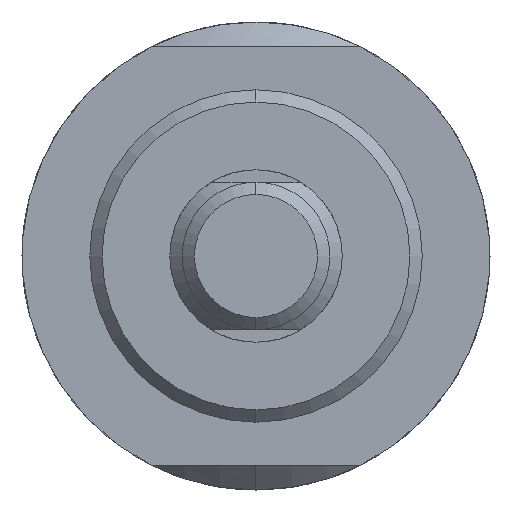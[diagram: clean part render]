
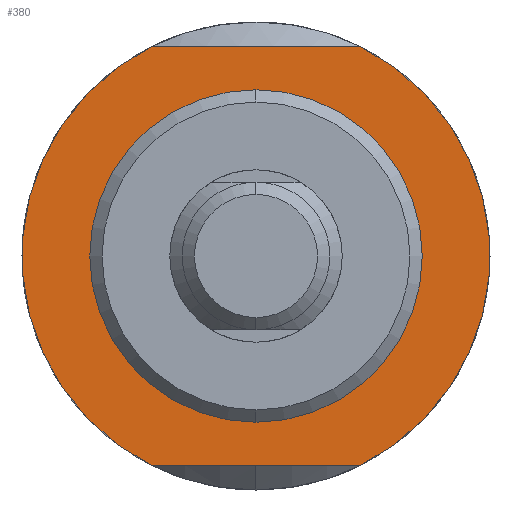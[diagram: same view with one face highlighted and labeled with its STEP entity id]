
A CAD part, left-side view. The second image highlights one B-rep face of the part: STEP entity #380.
In plain terms, the highlighted planar face has unit normal (-1, 0, 0).
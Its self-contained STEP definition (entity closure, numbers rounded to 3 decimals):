
#39 = LINE ( 'NONE', #367, #1624 ) ;
#75 = PLANE ( 'NONE',  #1456 ) ;
#121 = DIRECTION ( 'NONE',  ( 0., 0., 1. ) ) ;
#124 = VERTEX_POINT ( 'NONE', #1738 ) ;
#152 = EDGE_CURVE ( 'NONE', #707, #1403, #1567, .T. ) ;
#154 = LINE ( 'NONE', #851, #356 ) ;
#195 = EDGE_CURVE ( 'NONE', #1312, #489, #1030, .T. ) ;
#228 = DIRECTION ( 'NONE',  ( 0., -1., 0. ) ) ;
#329 = VERTEX_POINT ( 'NONE', #1558 ) ;
#337 = DIRECTION ( 'NONE',  ( 1., 0., 0. ) ) ;
#355 = ORIENTED_EDGE ( 'NONE', *, *, #152, .F. ) ;
#356 = VECTOR ( 'NONE', #228, 1000. ) ;
#367 = CARTESIAN_POINT ( 'NONE',  ( 48., 15., -17. ) ) ;
#380 = ADVANCED_FACE ( 'NONE', ( #1840, #1531 ), #75, .F. ) ;
#453 = EDGE_LOOP ( 'NONE', ( #1372, #1283, #1176, #1949 ) ) ;
#489 = VERTEX_POINT ( 'NONE', #1782 ) ;
#553 = CARTESIAN_POINT ( 'NONE',  ( 48., 0., -13.5 ) ) ;
#598 = CARTESIAN_POINT ( 'NONE',  ( 48., 0., 0. ) ) ;
#635 = CARTESIAN_POINT ( 'NONE',  ( 48., 0., 0. ) ) ;
#707 = VERTEX_POINT ( 'NONE', #1994 ) ;
#739 = EDGE_LOOP ( 'NONE', ( #355, #813 ) ) ;
#758 = DIRECTION ( 'NONE',  ( 0., 0., 1. ) ) ;
#764 = DIRECTION ( 'NONE',  ( -1., 0., 0. ) ) ;
#813 = ORIENTED_EDGE ( 'NONE', *, *, #968, .F. ) ;
#845 = CARTESIAN_POINT ( 'NONE',  ( 48., 0., 0. ) ) ;
#851 = CARTESIAN_POINT ( 'NONE',  ( 48., 15., 17. ) ) ;
#887 = EDGE_CURVE ( 'NONE', #124, #489, #154, .T. ) ;
#899 = AXIS2_PLACEMENT_3D ( 'NONE', #1501, #952, #758 ) ;
#952 = DIRECTION ( 'NONE',  ( -1., 0., 0. ) ) ;
#968 = EDGE_CURVE ( 'NONE', #1403, #707, #1102, .T. ) ;
#996 = DIRECTION ( 'NONE',  ( -1., 0., 0. ) ) ;
#1030 = CIRCLE ( 'NONE', #899, 19. ) ;
#1102 = CIRCLE ( 'NONE', #1820, 13.5 ) ;
#1176 = ORIENTED_EDGE ( 'NONE', *, *, #195, .T. ) ;
#1283 = ORIENTED_EDGE ( 'NONE', *, *, #1616, .F. ) ;
#1301 = DIRECTION ( 'NONE',  ( 0., 1., 0. ) ) ;
#1312 = VERTEX_POINT ( 'NONE', #1679 ) ;
#1324 = EDGE_CURVE ( 'NONE', #124, #329, #1575, .T. ) ;
#1354 = AXIS2_PLACEMENT_3D ( 'NONE', #598, #764, #1899 ) ;
#1372 = ORIENTED_EDGE ( 'NONE', *, *, #1324, .T. ) ;
#1403 = VERTEX_POINT ( 'NONE', #553 ) ;
#1406 = AXIS2_PLACEMENT_3D ( 'NONE', #635, #996, #1711 ) ;
#1456 = AXIS2_PLACEMENT_3D ( 'NONE', #1986, #337, #1604 ) ;
#1501 = CARTESIAN_POINT ( 'NONE',  ( 48., 0., 0. ) ) ;
#1531 = FACE_OUTER_BOUND ( 'NONE', #453, .T. ) ;
#1558 = CARTESIAN_POINT ( 'NONE',  ( 48., 8.485, -17. ) ) ;
#1567 = CIRCLE ( 'NONE', #1354, 13.5 ) ;
#1575 = CIRCLE ( 'NONE', #1406, 19. ) ;
#1604 = DIRECTION ( 'NONE',  ( 0., 0., -1. ) ) ;
#1616 = EDGE_CURVE ( 'NONE', #1312, #329, #39, .T. ) ;
#1620 = DIRECTION ( 'NONE',  ( -1., 0., 0. ) ) ;
#1624 = VECTOR ( 'NONE', #1301, 1000. ) ;
#1679 = CARTESIAN_POINT ( 'NONE',  ( 48., -8.485, -17. ) ) ;
#1711 = DIRECTION ( 'NONE',  ( 0., 0., 1. ) ) ;
#1738 = CARTESIAN_POINT ( 'NONE',  ( 48., 8.485, 17. ) ) ;
#1782 = CARTESIAN_POINT ( 'NONE',  ( 48., -8.485, 17. ) ) ;
#1820 = AXIS2_PLACEMENT_3D ( 'NONE', #845, #1620, #121 ) ;
#1840 = FACE_BOUND ( 'NONE', #739, .T. ) ;
#1899 = DIRECTION ( 'NONE',  ( 0., 0., 1. ) ) ;
#1949 = ORIENTED_EDGE ( 'NONE', *, *, #887, .F. ) ;
#1986 = CARTESIAN_POINT ( 'NONE',  ( 48., 0., -19. ) ) ;
#1994 = CARTESIAN_POINT ( 'NONE',  ( 48., 0., 13.5 ) ) ;
